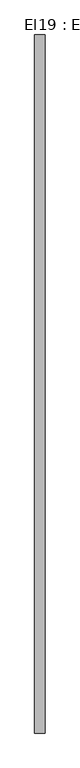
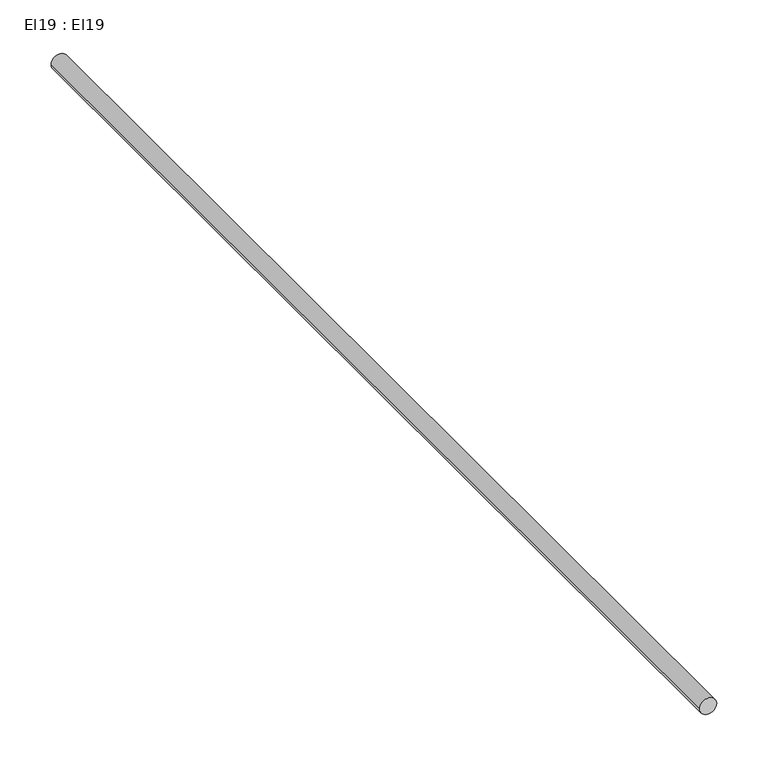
"""IFC4 building model written with IfcOpenShell, lengths in millimetres: cable carrier segment geometry, El19 : El19."""

from ifc_helpers import new_model, si_unit, point, frame, frame_2d, origin, place, context, project, spatial, circle_curve, trimmed, segment, composite_curve, outline, extrude, source, transform, mapped, element, save


def el19_el19_7fdb0a26(model_context):
    return source(origin(), model_context, "Body", "SweptSolid", [
        extrude(outline(composite_curve([segment(trimmed(circle_curve(frame_2d((300.0, 3450.0)), 9.5), [point((300.0, 3440.5))], [point((300.0, 3459.5))], False, "CARTESIAN"), True, "CONTINUOUS"), segment(trimmed(circle_curve(frame_2d((300.0, 3450.0)), 9.5), [point((300.0, 3459.5))], [point((300.0, 3440.5))], False, "CARTESIAN"), True, "CONTINUOUS")], self_intersect=False)), frame((0.0, 9538.912, 0.0), z_axis=(0.0, 1.0, 0.0), x_axis=(0.0, 0.0, 1.0)), (0.0, 0.0, 1.0), 1267.98),
    ])


if __name__ == "__main__":
    model = new_model("IFC4")
    model_context = context("Model", 3, world=origin())
    ifc_project = project(units=[si_unit("LENGTHUNIT", "METRE", prefix="MILLI")], contexts=[model_context])
    site = spatial("IfcSite", under=ifc_project)
    building = spatial("IfcBuilding", under=site)
    placement = place(None, origin())
    el19_el19_shape = el19_el19_7fdb0a26(model_context)
    element("IfcCableCarrierSegment", 1, ObjectType="El19 : El19", at=placement, inside=building, context=model_context, shape_type="MappedRepresentation", body=[
        mapped(el19_el19_shape, transform((0.0, 0.0, 0.0), x_axis=(1.0, 0.0, 0.0), y_axis=(0.0, 1.0, 0.0), z_axis=(0.0, 0.0, 1.0))),
    ])
    save(model, "model.ifc")
